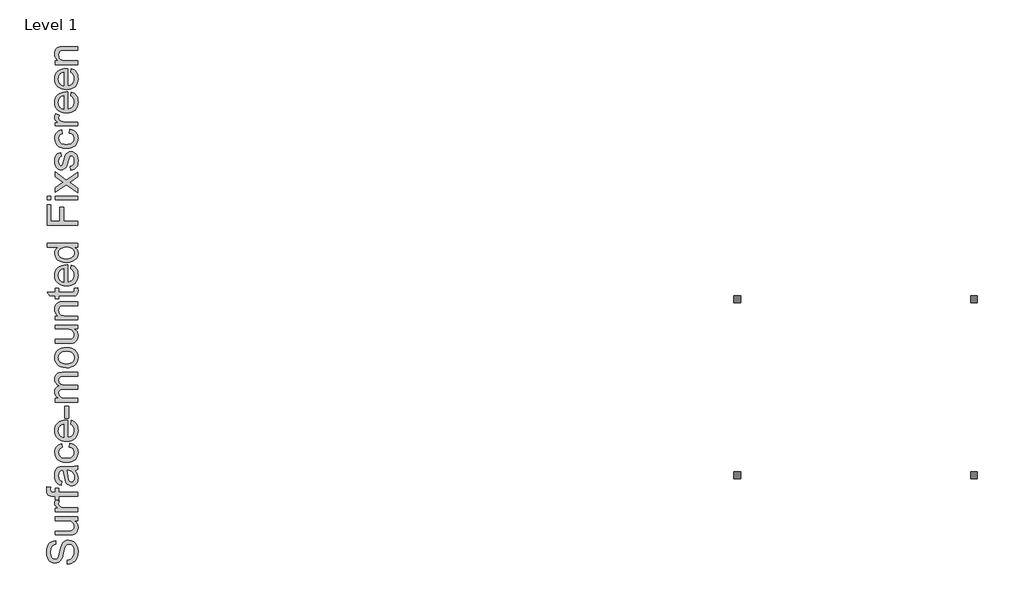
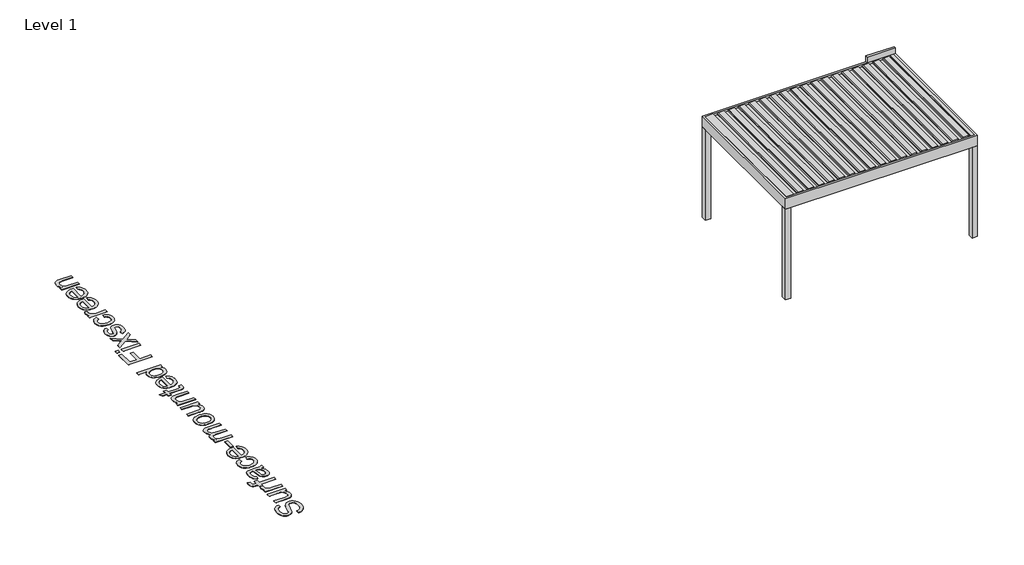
# One storey, part 46 of 47: 2 proxies.
"""IFC4 building model written with IfcOpenShell, lengths in millimetres."""

from ifc_helpers import new_model, si_unit, origin, origin_with_axes, place, context, project, spatial, polyline, outline, extrude, transform, mapped, element, save
from components import generic_models_be08a494

model = new_model("IFC4")

# Units and contexts
model_context = context("Model", 3, world=origin())
ifc_project = project(units=[si_unit("LENGTHUNIT", "METRE", prefix="MILLI")], contexts=[model_context])

# Site, building, storey
site = spatial("IfcSite", under=ifc_project)
building = spatial("IfcBuilding", under=site)
storey = spatial("IfcBuildingStorey", under=building, Name="Level 1", Elevation=0.0)

# Proxies
placement = place(None, origin())
generic_models_shape = generic_models_be08a494(model_context)
element("IfcBuildingElementProxy", 1, Name="Renson_Algarve_Single : Algarve - Single", ObjectType="Renson_Algarve_Single : Algarve - Single", at=placement, inside=storey, context=model_context, shape_type="MappedRepresentation", body=[
    mapped(generic_models_shape, transform((188362.4238385, 67528.5861401, 0.0), x_axis=(1.0, 0.0, 0.0), y_axis=(0.0, 1.0, 0.0), z_axis=(0.0, 0.0, 1.0))),
])
element("IfcBuildingElementProxy", 2, Name="500mm Arial", ObjectType="500mm Arial", at=placement, inside=storey, context=model_context, shape_type="SweptSolid", body=[
    extrude(outline(polyline([(175411.7215681, 64623.3833032), (175411.7215681, 64686.168497), (175446.5630588, 64693.3728528), (175474.5680756, 64706.4020068), (175496.7942795, 64726.727487), (175514.2993311, 64755.8208214), (175525.6576877, 64791.3827476), (175529.4438066, 64831.1140031), (175526.5773927, 64866.0934495), (175517.9781511, 64896.7196256), (175504.3665172, 64921.5363319), (175486.4629268, 64939.0873687), (175465.9075203, 64949.5260203), (175444.3404384, 64953.0055709), (175423.3251794, 64950.3997401), (175405.1610059, 64942.5822477), (175389.6639768, 64926.7020082), (175376.6501513, 64899.9079362), (175352.6765079, 64808.4892604), (175336.8115969, 64748.47851), (175321.7131066, 64710.0808267), (175300.5905488, 64678.8261855), (175274.9920933, 64656.6766237), (175245.4695631, 64643.4788572), (175212.5747814, 64639.0796016), (175175.8019103, 64644.5211895), (175141.5122427, 64660.845953), (175125.9845568, 64672.9822268), (175112.4495651, 64687.6246966), (175091.357664, 64724.4282245), (175078.5277794, 64768.6047208), (175074.2511512, 64817.5023693), (175078.7270488, 64870.4773766), (175092.1547416, 64916.830508), (175114.2583182, 64954.9062945), (175128.460096, 64970.2193826), (175144.761867, 64983.0492671), (175181.7646643, 65000.8608871), (175223.3659866, 65007.9426155), (175223.3659866, 64945.1574216), (175203.3317463, 64940.9574355), (175185.9033368, 64933.6304524), (175171.080758, 64923.1764724), (175158.8640101, 64909.5954954), (175149.3144067, 64892.6346026), (175142.4932613, 64872.0408751), (175137.0363451, 64819.9549159), (175142.4319477, 64766.6426835), (175149.1764509, 64746.2635538), (175158.6187554, 64730.0690818), (175169.9694478, 64717.7297065), (175182.4391146, 64708.9158671), (175196.0277558, 64703.6275634), (175210.7353714, 64701.8647955), (175234.8622989, 64706.8618593), (175254.2680742, 64721.8530506), (175262.8979727, 64735.6179685), (175271.6198416, 64757.2923494), (175289.3394911, 64824.3694999), (175306.1700923, 64893.5926286), (175320.8547153, 64935.4698624), (175343.6327422, 64971.2617149), (175371.745058, 64996.2317053), (175404.8850944, 65010.9009999), (175442.7462831, 65015.7907647), (175481.4505346, 65010.1652359), (175517.8555237, 64993.2886493), (175549.186807, 64965.8507839), (175572.669941, 64928.5414182), (175587.3392356, 64883.6751432), (175592.2290004, 64833.5665498), (175586.9560252, 64772.0536145), (175580.3648061, 64745.3783377), (175571.1370994, 64721.4238549), (175559.2575766, 64700.044546), (175544.7109094, 64681.0947912), (175527.4970977, 64664.5745903), (175507.6161415, 64650.4839435), (175485.7118344, 64639.1332511), (175462.4279698, 64630.8329136), (175437.7645477, 64625.5829309), (175411.7215681, 64623.3833032)])), origin_with_axes(), (0.0, 0.0, 1.0), 5.0),
    extrude(outline(polyline([(175584.3808512, 65337.5648832), (175520.9825207, 65337.5648832), (175552.1528556, 65314.84817), (175574.4173805, 65288.3913231), (175587.7760954, 65258.1943427), (175592.2290004, 65224.2572286), (175589.1020035, 65193.6770378), (175579.7210126, 65165.2121684), (175565.6188694, 65141.3304956), (175548.3284157, 65124.4998943), (175527.3284851, 65113.1721945), (175502.0979116, 65105.7992262), (175443.7273017, 65102.1204062), (175215.5178374, 65102.1204062), (175215.5178374, 65164.9056001), (175414.1741148, 65164.9056001), (175478.1855819, 65168.7070474), (175499.5380661, 65177.858112), (175515.7708591, 65193.539082), (175526.0255697, 65214.7076252), (175529.4438066, 65240.3214091), (175525.9489276, 65267.406721), (175515.4642908, 65292.7445934), (175498.9555862, 65313.6372251), (175477.3885043, 65327.3868146), (175447.8506457, 65335.020366), (175407.4296115, 65337.5648832), (175215.5178374, 65337.5648832), (175215.5178374, 65400.350077), (175584.3808512, 65400.350077), (175584.3808512, 65337.5648832)])), origin_with_axes(), (0.0, 0.0, 1.0), 5.0),
    extrude(outline(polyline([(175584.3808512, 65737.8204939), (175278.3030312, 65737.8204939), (175278.3030312, 65682.8834493), (175227.0448065, 65682.8834493), (175215.5178374, 65682.8834493), (175215.5178374, 65737.8204939), (175178.3617559, 65737.8204939), (175147.6129524, 65739.4759629), (175125.9998852, 65744.4423698), (175105.122582, 65757.072985), (175088.598549, 65776.5707307), (175077.8380007, 65803.855312), (175074.2511512, 65839.8464339), (175081.1182818, 65897.1133978), (175139.979401, 65887.9163479), (175137.0363451, 65851.7412851), (175139.6421759, 65827.8749406), (175147.4596683, 65812.1939706), (175162.3895459, 65803.5027585), (175186.3325324, 65800.6056877), (175215.5178374, 65800.6056877), (175215.5178374, 65871.2390308), (175278.3030312, 65871.2390308), (175278.3030312, 65800.6056877), (175584.3808512, 65800.6056877), (175584.3808512, 65737.8204939)])), origin_with_axes(), (0.0, 0.0, 1.0), 5.0),
    extrude(outline(polyline([(175584.3808512, 65486.6797185), (175215.5178374, 65486.6797185), (175215.5178374, 65541.6167631), (175270.087, 65541.6167631), (175238.4491484, 65561.9115865), (175219.809794, 65580.6122546), (175210.7047146, 65599.3742364), (175207.6696881, 65619.8530008), (175212.5134677, 65651.1229704), (175227.0448065, 65682.8834493), (175283.3307518, 65661.9141756), (175273.6738494, 65639.8412559), (175270.454882, 65617.7683361), (175273.5512221, 65599.0216828), (175282.8402425, 65582.2677236), (175297.616836, 65568.7327319), (175317.1758954, 65559.6429809), (175352.2473122, 65552.0094295), (175390.5070397, 65549.4649124), (175584.3808512, 65549.4649124), (175584.3808512, 65486.6797185)])), origin_with_axes(), (0.0, 0.0, 1.0), 5.0),
    extrude(outline(polyline([(175537.2919558, 66161.6205523), (175563.0130386, 66131.6228413), (175579.8436399, 66100.7360821), (175589.1326603, 66068.2551677), (175592.2290004, 66033.4749907), (175590.3665978, 66005.5197912), (175584.77939, 65981.0058211), (175575.467377, 65959.9330806), (175562.4305588, 65942.3015696), (175546.4966699, 65928.3795353), (175528.4934448, 65918.4352251), (175508.4208834, 65912.468639), (175486.2789858, 65910.479777), (175460.2513347, 65913.4841466), (175436.6149165, 65922.4972555), (175416.3814067, 65936.4001292), (175400.5624809, 65954.0737934), (175388.6063161, 65974.8437977), (175379.9610892, 65998.0356918), (175370.5187847, 66052.3595998), (175360.5859708, 66116.5550079), (175348.9363743, 66161.2526704), (175334.9568585, 66161.6205523), (175306.9365132, 66157.2979389), (175288.6037271, 66144.3300986), (175280.6636073, 66131.2549593), (175274.9920933, 66115.3287346), (175270.454882, 66074.9230288), (175273.47458, 66037.5216926), (175282.5336742, 66011.402071), (175299.2876334, 65993.5904511), (175325.3919266, 65981.11312), (175317.5437774, 65918.3279262), (175283.2081245, 65929.2264303), (175256.2301115, 65945.4898802), (175235.5980629, 65968.635789), (175220.3003033, 66000.1816701), (175210.8273419, 66038.7632944), (175207.6696881, 66083.0164327), (175210.4594599, 66125.4608179), (175218.8287753, 66159.106692), (175231.4134052, 66184.4752213), (175246.8491206, 66202.0875718), (175265.9329991, 66213.7678252), (175289.4621184, 66221.3400629), (175344.399163, 66224.4057462), (175422.5127733, 66224.4057462), (175531.5897849, 66227.5940568), (175558.5524695, 66232.3152091), (175584.3808512, 66240.1020447), (175584.3808512, 66177.3168508), (175562.5531861, 66167.2614096), (175537.2919558, 66161.6205523)]), holes=[polyline([(175411.7215681, 66161.6205523), (175422.1755482, 66119.4367502), (175430.9740592, 66060.3303763), (175441.1521277, 66006.3130367), (175448.1112288, 65992.2568788), (175457.7068175, 65981.848884), (175469.2031299, 65975.4109491), (175481.8644019, 65973.2649708), (175500.5344131, 65977.9401378), (175515.8321728, 65991.9656389), (175526.0408981, 66015.0349057), (175529.4438066, 66046.8413699), (175525.6883445, 66080.5638861), (175514.4219584, 66110.3623277), (175497.8212834, 66134.519912), (175478.0629546, 66151.3198565), (175457.7068175, 66158.7694669), (175429.5025312, 66161.2526704), (175411.7215681, 66161.6205523)])]), origin_with_axes(), (0.0, 0.0, 1.0), 5.0),
    extrude(outline(polyline([(175450.9623143, 66546.1798646), (175458.8104635, 66608.9650585), (175488.4364604, 66602.1362489), (175514.6518847, 66591.4600069), (175537.4567363, 66576.9363323), (175556.8510152, 66558.5652251), (175572.3288838, 66537.1207705), (175583.3845041, 66513.3770534), (175590.0178764, 66487.3340738), (175592.2290004, 66458.9918318), (175589.1441566, 66423.7786271), (175579.8896252, 66392.2059212), (175564.4654061, 66364.2737143), (175542.8714994, 66339.9820063), (175515.5141081, 66320.3194801), (175482.7994353, 66306.2748185), (175444.7274809, 66297.8480216), (175401.2982449, 66295.0390893), (175345.4261669, 66299.8368836), (175297.0036993, 66314.2302667), (175276.0535861, 66325.0827855), (175257.9009089, 66338.4491647), (175242.5456677, 66354.3294042), (175229.9878625, 66372.7235039), (175213.2492317, 66413.727018), (175207.6696881, 66458.1334405), (175209.5857402, 66485.9890053), (175215.3338964, 66511.1850899), (175224.9141567, 66533.7216942), (175238.3265211, 66553.5988182), (175255.2644213, 66570.4792368), (175275.4212889, 66584.0257249), (175298.797124, 66594.2382824), (175325.3919266, 66601.1169093), (175333.2400758, 66538.3317154), (175305.8481956, 66526.942702), (175286.2124941, 66509.2077241), (175274.394285, 66486.1078005), (175270.454882, 66458.6239498), (175272.3939267, 66437.2906262), (175278.2110607, 66418.0496314), (175287.9062841, 66400.9009655), (175301.4795969, 66385.8446284), (175319.2452316, 66373.5857273), (175341.5174207, 66364.8293694), (175368.2961643, 66359.5755547), (175399.5814623, 66357.8242831), (175431.3381091, 66359.5372337), (175458.4272531, 66364.6760853), (175480.8488943, 66373.240838), (175498.6030327, 66385.2314918), (175512.0958712, 66399.9889247), (175521.7336131, 66416.8540149), (175527.5162582, 66435.8267624), (175529.4438066, 66456.9071671), (175524.6306838, 66489.4187385), (175510.1913155, 66516.0748547), (175499.2698188, 66526.8545636), (175485.7578197, 66535.4653015), (175450.9623143, 66546.1798646)])), origin_with_axes(), (0.0, 0.0, 1.0), 5.0),
    extrude(outline(polyline([(175474.506762, 66922.1552637), (175482.3549112, 66983.7141842), (175507.0106691, 66974.2757118), (175528.7386994, 66961.5339656), (175547.5390022, 66945.4889457), (175563.4115775, 66926.140652), (175576.0192, 66903.688354), (175585.0246447, 66878.331321), (175590.4279115, 66850.0695532), (175592.2290004, 66818.9030504), (175589.121164, 66779.94588), (175579.7976547, 66745.2346809), (175564.2584725, 66714.7694531), (175542.5036174, 66688.5501968), (175515.1385619, 66667.4659599), (175482.7687784, 66652.4057907), (175445.394267, 66643.3696892), (175403.0150276, 66640.3576554), (175359.1987491, 66643.4003461), (175320.5788038, 66652.5284181), (175287.1551917, 66667.7418714), (175258.9279128, 66689.0407061), (175236.5024395, 66715.1909846), (175220.4842443, 66744.9587694), (175210.8733272, 66778.3440604), (175207.6696881, 66815.3468578), (175210.865663, 66851.1578707), (175220.4535875, 66883.5429826), (175236.4334616, 66912.5021934), (175258.8052855, 66938.0355032), (175286.9712507, 66958.8783175), (175320.3335492, 66973.766042), (175358.8921808, 66982.6986766), (175402.6471456, 66985.6762215), (175419.5697174, 66985.3083396), (175419.5697174, 66703.1428493), (175444.6240141, 66706.7795161), (175466.5666422, 66714.0106965), (175485.3976019, 66724.8363907), (175501.116893, 66739.2565984), (175513.5099177, 66756.4742422), (175522.3620782, 66775.6922444), (175527.6733745, 66796.9106049), (175529.4438066, 66820.1293237), (175526.1635255, 66853.5452716), (175516.3226821, 66881.6882442), (175499.3081398, 66904.5582416), (175474.506762, 66922.1552637)]), holes=[polyline([(175356.7845235, 66703.1428493), (175356.7845235, 66922.8910277), (175323.6138303, 66914.399085), (175299.8854416, 66897.7524247), (175287.0095718, 66880.6305835), (175277.8125219, 66861.1481662), (175272.294292, 66839.3051727), (175270.454882, 66815.1016031), (175276.3256655, 66772.7798453), (175283.6641449, 66754.366585), (175293.938016, 66737.7850705), (175306.672098, 66723.8707004), (175321.3912099, 66713.4588735), (175338.0953517, 66706.5495898), (175356.7845235, 66703.1428493)])]), origin_with_axes(), (0.0, 0.0, 1.0), 5.0),
    extrude(outline(polyline([(175435.2660158, 67017.0688185), (175372.480822, 67017.0688185), (175372.480822, 67213.2725492), (175435.2660158, 67213.2725492), (175435.2660158, 67017.0688185)])), origin_with_axes(), (0.0, 0.0, 1.0), 5.0),
    extrude(outline(polyline([(175584.3808512, 67283.9058923), (175215.5178374, 67283.9058923), (175215.5178374, 67346.6910861), (175276.2183666, 67346.6910861), (175248.335977, 67365.5756952), (175226.4929836, 67389.8559069), (175212.375512, 67418.7039867), (175207.6696881, 67451.2922001), (175212.4674825, 67486.2103328), (175226.8608656, 67514.2000213), (175249.8994755, 67535.1079813), (175280.6329505, 67548.7809288), (175248.7115232, 67571.6662546), (175225.9105037, 67597.7705479), (175212.229892, 67627.0938086), (175207.6696881, 67659.6360367), (175209.5665797, 67684.7708076), (175215.2572543, 67706.832231), (175224.741712, 67725.8203069), (175238.0199527, 67741.7350353), (175255.2452607, 67754.3158331), (175276.5709201, 67763.3021173), (175301.996931, 67768.6938878), (175331.5232932, 67770.4911446), (175584.3808512, 67770.4911446), (175584.3808512, 67707.7059507), (175358.5013062, 67707.7059507), (175327.1853513, 67706.2497512), (175306.0781218, 67701.8811525), (175291.6234251, 67693.6957781), (175280.2650685, 67680.7892514), (175272.9074286, 67664.1885764), (175270.454882, 67644.9207569), (175272.0260447, 67627.1282975), (175276.7395327, 67610.9070008), (175284.5953462, 67596.2568667), (175295.593485, 67583.1778954), (175310.0558459, 67572.4211791), (175328.3043257, 67564.7378104), (175350.3389244, 67560.1277891), (175376.1596419, 67558.5911154), (175584.3808512, 67558.5911154), (175584.3808512, 67495.8059215), (175351.5115482, 67495.8059215), (175316.0109357, 67492.1730868), (175290.6883917, 67481.2745827), (175281.8362312, 67472.8477858), (175275.5132594, 67462.0987337), (175270.454882, 67433.6338643), (175273.8271336, 67409.4456232), (175283.9438885, 67387.1581056), (175300.5598919, 67368.7640059), (175323.4298893, 67356.256018), (175355.1597114, 67349.0823191), (175398.355189, 67346.6910861), (175584.3808512, 67346.6910861), (175584.3808512, 67283.9058923)])), origin_with_axes(), (0.0, 0.0, 1.0), 5.0),
    extrude(outline(polyline([(175399.9493443, 67848.9726369), (175352.1783344, 67852.3678811), (175311.0138719, 67862.5536139), (175276.455957, 67879.5298351), (175248.5045896, 67903.2965448), (175230.6393202, 67927.224203), (175217.8784135, 67953.6350645), (175210.2218695, 67982.5291296), (175207.6696881, 68013.9063981), (175210.7775246, 68048.5447872), (175220.1010339, 68079.8645741), (175235.6402161, 68107.8657589), (175257.3950711, 68132.5483415), (175284.6298351, 68152.6937128), (175316.608744, 68167.0832638), (175353.3317977, 68175.7169944), (175394.7989963, 68178.5949046), (175458.2279837, 68173.5058703), (175484.2632991, 68167.1445775), (175506.5124956, 68158.2387675), (175525.7304977, 68146.8995714), (175542.67223, 68133.2381203), (175557.3376924, 68117.254414), (175569.7268851, 68098.9484526), (175586.6034716, 68058.2208501), (175592.2290004, 68013.9063981), (175589.1326603, 67978.7621712), (175579.8436399, 67947.1511444), (175564.3619393, 67919.0733175), (175542.6875584, 67894.5286906), (175515.1883793, 67874.5979171), (175482.2322839, 67860.3616503), (175443.8192722, 67851.8198903), (175399.9493443, 67848.9726369)]), holes=[polyline([(175399.8267169, 67911.7578307), (175430.2804484, 67913.5742481), (175456.6491568, 67919.0235001), (175478.9328422, 67928.1055869), (175497.1315047, 67940.8205084), (175511.2681368, 67956.2868806), (175521.3657311, 67973.6233196), (175527.4242877, 67992.8298254), (175529.4438066, 68013.9063981), (175527.4127914, 68034.8756718), (175521.3197459, 68054.0055355), (175511.1646699, 68071.2959893), (175496.9475637, 68086.7470331), (175478.5687923, 68099.4619546), (175455.9287212, 68108.5440413), (175429.0273503, 68113.9932934), (175397.8646796, 68115.8097107), (175368.3766385, 68113.9817971), (175342.6977088, 68108.4980561), (175320.8278906, 68099.3584878), (175302.7671839, 68086.5630921), (175288.6305518, 68071.0545668), (175278.5329575, 68053.7756093), (175272.4744008, 68034.7262197), (175270.454882, 68013.9063981), (175272.4667366, 67992.8298254), (175278.5023006, 67973.6233196), (175288.5615739, 67956.2868806), (175302.6445566, 67940.8205084), (175320.7895695, 67928.1055869), (175343.0349339, 67919.0235001), (175369.3806497, 67913.5742481), (175399.8267169, 67911.7578307)])]), origin_with_axes(), (0.0, 0.0, 1.0), 5.0),
    extrude(outline(polyline([(175584.3808512, 68484.6727246), (175520.9825207, 68484.6727246), (175552.1528556, 68461.9560114), (175574.4173805, 68435.4991645), (175587.7760954, 68405.3021841), (175592.2290004, 68371.36507), (175589.1020035, 68340.7848792), (175579.7210126, 68312.3200098), (175565.6188694, 68288.438337), (175548.3284157, 68271.6077357), (175527.3284851, 68260.2800359), (175502.0979116, 68252.9070676), (175443.7273017, 68249.2282476), (175215.5178374, 68249.2282476), (175215.5178374, 68312.0134415), (175414.1741148, 68312.0134415), (175478.1855819, 68315.8148888), (175499.5380661, 68324.9659534), (175515.7708591, 68340.6469234), (175526.0255697, 68361.8154666), (175529.4438066, 68387.4292505), (175525.9489276, 68414.5145624), (175515.4642908, 68439.8524348), (175498.9555862, 68460.7450665), (175477.3885043, 68474.494656), (175447.8506457, 68482.1282074), (175407.4296115, 68484.6727246), (175215.5178374, 68484.6727246), (175215.5178374, 68547.4579184), (175584.3808512, 68547.4579184), (175584.3808512, 68484.6727246)])), origin_with_axes(), (0.0, 0.0, 1.0), 5.0),
    extrude(outline(polyline([(175584.3808512, 68633.7875599), (175215.5178374, 68633.7875599), (175215.5178374, 68696.5727538), (175267.0213167, 68696.5727538), (175241.0549792, 68718.3850904), (175222.5075953, 68744.5813542), (175211.3791649, 68775.161545), (175207.6696881, 68810.125663), (175210.6587293, 68841.0737358), (175219.625853, 68869.4159778), (175233.4520846, 68893.052396), (175251.0184499, 68909.8829973), (175272.2789635, 68921.3026676), (175297.1876403, 68928.7062927), (175357.8881695, 68932.0172307), (175584.3808512, 68932.0172307), (175584.3808512, 68869.2320369), (175366.3494554, 68869.2320369), (175333.8838693, 68867.4232837), (175310.7992741, 68861.9970243), (175294.2599127, 68851.9875683), (175281.4300282, 68836.4292256), (175273.1986685, 68816.4869558), (175270.454882, 68793.3257185), (175271.9953878, 68774.2610005), (175276.6169054, 68756.5528474), (175284.3194347, 68740.2012591), (175295.1029757, 68725.2062357), (175310.1938017, 68712.6790874), (175330.818186, 68703.7311243), (175356.9761287, 68698.3623464), (175388.6676298, 68696.5727538), (175584.3808512, 68696.5727538), (175584.3808512, 68633.7875599)])), origin_with_axes(), (0.0, 0.0, 1.0), 5.0),
    extrude(outline(polyline([(175532.0189805, 69151.7654091), (175586.2202612, 69159.6135584), (175592.2290004, 69112.6472903), (175589.6231696, 69082.5116236), (175581.8056772, 69060.040165), (175569.7575419, 69044.1599256), (175554.4597823, 69033.797916), (175528.1868764, 69028.0957451), (175483.2133025, 69026.1950215), (175278.3030312, 69026.1950215), (175278.3030312, 68979.1061261), (175215.5178374, 68979.1061261), (175215.5178374, 69026.1950215), (175125.8772579, 69026.1950215), (175088.966431, 69088.9802153), (175215.5178374, 69088.9802153), (175215.5178374, 69151.7654091), (175278.3030312, 69151.7654091), (175278.3030312, 69088.9802153), (175481.3738925, 69088.9802153), (175513.7475081, 69092.2911533), (175525.2131636, 69103.0210448), (175529.4438066, 69124.4195142), (175532.0189805, 69151.7654091)])), origin_with_axes(), (0.0, 0.0, 1.0), 5.0),
    extrude(outline(polyline([(175474.506762, 69472.8037636), (175482.3549112, 69534.3626841), (175507.0106691, 69524.9242117), (175528.7386994, 69512.1824655), (175547.5390022, 69496.1374456), (175563.4115775, 69476.7891519), (175576.0192, 69454.3368539), (175585.0246447, 69428.9798209), (175590.4279115, 69400.7180531), (175592.2290004, 69369.5515503), (175589.121164, 69330.5943798), (175579.7976547, 69295.8831808), (175564.2584725, 69265.417953), (175542.5036174, 69239.1986967), (175515.1385619, 69218.1144598), (175482.7687784, 69203.0542906), (175445.394267, 69194.0181891), (175403.0150276, 69191.0061553), (175359.1987491, 69194.048846), (175320.5788038, 69203.176918), (175287.1551917, 69218.3903713), (175258.9279128, 69239.689206), (175236.5024395, 69265.8394845), (175220.4842443, 69295.6072693), (175210.8733272, 69328.9925603), (175207.6696881, 69365.9953577), (175210.865663, 69401.8063706), (175220.4535875, 69434.1914825), (175236.4334616, 69463.1506933), (175258.8052855, 69488.6840031), (175286.9712507, 69509.5268174), (175320.3335492, 69524.4145418), (175358.8921808, 69533.3471765), (175402.6471456, 69536.3247214), (175419.5697174, 69535.9568394), (175419.5697174, 69253.7913491), (175444.6240141, 69257.4280159), (175466.5666422, 69264.6591964), (175485.3976019, 69275.4848905), (175501.116893, 69289.9050983), (175513.5099177, 69307.1227421), (175522.3620782, 69326.3407443), (175527.6733745, 69347.5591048), (175529.4438066, 69370.7778236), (175526.1635255, 69404.1937715), (175516.3226821, 69432.3367441), (175499.3081398, 69455.2067415), (175474.506762, 69472.8037636)]), holes=[polyline([(175356.7845235, 69253.7913491), (175356.7845235, 69473.5395276), (175323.6138303, 69465.0475849), (175299.8854416, 69448.4009246), (175287.0095718, 69431.2790834), (175277.8125219, 69411.7966661), (175272.294292, 69389.9536726), (175270.454882, 69365.750103), (175276.3256655, 69323.4283451), (175283.6641449, 69305.0150849), (175293.938016, 69288.4335704), (175306.672098, 69274.5192003), (175321.3912099, 69264.1073734), (175338.0953517, 69257.1980897), (175356.7845235, 69253.7913491)])]), origin_with_axes(), (0.0, 0.0, 1.0), 5.0),
    extrude(outline(polyline([(175584.3808512, 69826.706243), (175525.15185, 69826.706243), (175554.4981033, 69807.9212686), (175575.4597128, 69785.1662343), (175588.0366785, 69758.4411402), (175592.2290004, 69727.7459863), (175586.1589475, 69687.1563395), (175567.9487887, 69650.0002579), (175538.8707827, 69618.5463474), (175500.197188, 69595.0632133), (175453.491503, 69580.439904), (175400.3172263, 69575.5654676), (175347.8020715, 69580.0566936), (175300.3759509, 69593.5303717), (175279.2457288, 69603.6317981), (175260.7366659, 69615.9711734), (175244.8487623, 69630.5484975), (175231.5820178, 69647.3637703), (175213.6477706, 69685.3322579), (175207.6696881, 69727.5007316), (175211.9463163, 69758.2188782), (175224.7762009, 69785.3808322), (175244.4425592, 69808.4041137), (175269.2286087, 69826.706243), (175082.0993004, 69826.706243), (175082.0993004, 69889.4914368), (175584.3808512, 69889.4914368), (175584.3808512, 69826.706243)]), holes=[polyline([(175400.0719716, 69638.3506614), (175430.5180388, 69640.1210935), (175456.8637546, 69645.4323898), (175479.109119, 69654.2845504), (175497.254132, 69666.6775751), (175511.3371146, 69681.4771612), (175521.3963879, 69697.5490058), (175527.4319519, 69714.8931091), (175529.4438066, 69733.5094709), (175527.5239224, 69752.213971), (175521.7642699, 69769.4546075), (175512.1648491, 69785.2313801), (175498.72566, 69799.544289), (175481.3394036, 69811.4276439), (175459.8987811, 69819.9157545), (175434.4037924, 69825.0086208), (175404.8544375, 69826.706243), (175372.4578293, 69824.977964), (175344.6750745, 69819.7931271), (175321.506173, 69811.1517324), (175302.9511249, 69799.0537797), (175288.7340186, 69784.4266382), (175278.5789427, 69768.1976773), (175272.4858972, 69750.3668969), (175270.454882, 69730.9342969), (175272.405423, 69711.9500531), (175278.257046, 69694.6059499), (175288.0097509, 69678.9019872), (175301.6635379, 69664.8381651), (175319.517311, 69653.2498822), (175341.8699743, 69644.9725373), (175368.7215278, 69640.0061304), (175400.0719716, 69638.3506614)])]), origin_with_axes(), (0.0, 0.0, 1.0), 5.0),
    extrude(outline(polyline([(175584.3808512, 70187.7211076), (175082.0993004, 70187.7211076), (175082.0993004, 70525.1915245), (175144.8844943, 70525.1915245), (175144.8844943, 70250.5063014), (175293.9993297, 70250.5063014), (175293.9993297, 70485.9507783), (175356.7845235, 70485.9507783), (175356.7845235, 70250.5063014), (175584.3808512, 70250.5063014), (175584.3808512, 70187.7211076)])), origin_with_axes(), (0.0, 0.0, 1.0), 5.0),
    extrude(outline(polyline([(175584.3808512, 70603.6730168), (175215.5178374, 70603.6730168), (175215.5178374, 70666.4582106), (175584.3808512, 70666.4582106), (175584.3808512, 70603.6730168)])), origin_with_axes(), (0.0, 0.0, 1.0), 5.0),
    extrude(outline(polyline([(175144.8844943, 70603.6730168), (175082.0993004, 70603.6730168), (175082.0993004, 70666.4582106), (175144.8844943, 70666.4582106), (175144.8844943, 70603.6730168)])), origin_with_axes(), (0.0, 0.0, 1.0), 5.0),
    extrude(outline(polyline([(175584.3808512, 70721.3952552), (175398.9683256, 70855.5495561), (175215.5178374, 70729.2434045), (175215.5178374, 70804.7818408), (175303.8095162, 70865.7276247), (175345.502809, 70894.1771656), (175311.4124108, 70918.8252593), (175215.5178374, 70988.2323291), (175215.5178374, 71063.7707654), (175398.9683256, 70931.0879925), (175584.3808512, 71058.8656721), (175584.3808512, 70983.3272358), (175472.9126067, 70906.4398988), (175452.5564696, 70892.3377557), (175584.3808512, 70796.9336916), (175584.3808512, 70721.3952552)])), origin_with_axes(), (0.0, 0.0, 1.0), 5.0),
    extrude(outline(polyline([(175474.506762, 71090.2582691), (175466.6586127, 71153.0434629), (175493.5139984, 71162.9456199), (175513.2569988, 71182.1061405), (175525.3971046, 71210.647652), (175529.4438066, 71248.6927817), (175525.7343298, 71286.2780588), (175514.6058994, 71312.7042488), (175498.4804053, 71328.3392336), (175479.7797372, 71333.5508952), (175463.7768704, 71328.3085768), (175451.5754509, 71312.5816215), (175433.6718605, 71247.9570177), (175417.1018423, 71190.6593969), (175402.9537139, 71153.4113449), (175387.5179985, 71129.4836868), (175367.0852194, 71112.1472478), (175342.9582919, 71101.6166257), (175316.4401314, 71098.1064183), (175292.1139344, 71100.9268469), (175269.6578043, 71109.3881328), (175249.9607892, 71122.7238551), (175233.9119371, 71140.1675931), (175223.8105107, 71157.5040321), (175215.3338964, 71180.0827896), (175209.5857402, 71206.1870828), (175207.6696881, 71234.1001292), (175210.7506998, 71274.9656875), (175219.993735, 71310.4969568), (175234.494417, 71339.0691251), (175253.3483692, 71359.0573802), (175277.9504776, 71372.301132), (175309.6956281, 71380.6397906), (175317.5437774, 71317.8545967), (175297.7854485, 71309.9298054), (175282.9015561, 71294.2488354), (175273.5665505, 71270.6584024), (175270.454882, 71239.0052224), (175273.4285948, 71202.9527869), (175282.3497332, 71178.9178299), (175295.225603, 71165.3981666), (175310.0635101, 71160.8916121), (175319.7204125, 71162.7616789), (175328.3349826, 71168.3718794), (175336.0298476, 71177.9674681), (175342.191871, 71191.7936997), (175355.5582502, 71245.872353), (175385.1114371, 71338.0267928), (175399.2442371, 71362.3683182), (175418.5886987, 71380.8237316), (175443.2061355, 71392.4579997), (175473.1578613, 71396.3360891), (175504.1212626, 71391.7835494), (175533.2452539, 71378.1259303), (175558.2459011, 71355.884398), (175576.8392703, 71325.5801186), (175588.3815679, 71288.9758601), (175592.2290004, 71247.8343903), (175590.374262, 71214.0428962), (175584.8100469, 71184.5280303), (175575.5363549, 71159.2897926), (175562.5531861, 71138.3281831), (175545.9218543, 71121.2063419), (175525.703673, 71107.4874092), (175501.8986422, 71097.1713849), (175474.506762, 71090.2582691)])), origin_with_axes(), (0.0, 0.0, 1.0), 5.0),
    extrude(outline(polyline([(175450.9623143, 71702.413909), (175458.8104635, 71765.1991029), (175488.4364604, 71758.3702933), (175514.6518847, 71747.6940513), (175537.4567363, 71733.1703767), (175556.8510152, 71714.7992695), (175572.3288838, 71693.3548149), (175583.3845041, 71669.6110978), (175590.0178764, 71643.5681182), (175592.2290004, 71615.2258762), (175589.1441566, 71580.0126715), (175579.8896252, 71548.4399656), (175564.4654061, 71520.5077587), (175542.8714994, 71496.2160507), (175515.5141081, 71476.5535245), (175482.7994353, 71462.5088629), (175444.7274809, 71454.082066), (175401.2982449, 71451.2731337), (175345.4261669, 71456.070928), (175297.0036993, 71470.4643111), (175276.0535861, 71481.3168299), (175257.9009089, 71494.6832091), (175242.5456677, 71510.5634486), (175229.9878625, 71528.9575483), (175213.2492317, 71569.9610624), (175207.6696881, 71614.3674849), (175209.5857402, 71642.2230497), (175215.3338964, 71667.4191342), (175224.9141567, 71689.9557386), (175238.3265211, 71709.8328626), (175255.2644213, 71726.7132812), (175275.4212889, 71740.2597693), (175298.797124, 71750.4723268), (175325.3919266, 71757.3509537), (175333.2400758, 71694.5657598), (175305.8481956, 71683.1767464), (175286.2124941, 71665.4417685), (175274.394285, 71642.3418449), (175270.454882, 71614.8579942), (175272.3939267, 71593.5246706), (175278.2110607, 71574.2836758), (175287.9062841, 71557.1350099), (175301.4795969, 71542.0786728), (175319.2452316, 71529.8197717), (175341.5174207, 71521.0634138), (175368.2961643, 71515.8095991), (175399.5814623, 71514.0583275), (175431.3381091, 71515.771278), (175458.4272531, 71520.9101297), (175480.8488943, 71529.4748824), (175498.6030327, 71541.4655361), (175512.0958712, 71556.2229691), (175521.7336131, 71573.0880593), (175527.5162582, 71592.0608068), (175529.4438066, 71613.1412115), (175524.6306838, 71645.6527829), (175510.1913155, 71672.3088991), (175499.2698188, 71683.088608), (175485.7578197, 71691.6993459), (175450.9623143, 71702.413909)])), origin_with_axes(), (0.0, 0.0, 1.0), 5.0),
    extrude(outline(polyline([(175584.3808512, 71820.1361475), (175215.5178374, 71820.1361475), (175215.5178374, 71875.0731921), (175270.087, 71875.0731921), (175238.4491484, 71895.3680155), (175219.809794, 71914.0686836), (175210.7047146, 71932.8306654), (175207.6696881, 71953.3094297), (175212.5134677, 71984.5793993), (175227.0448065, 72016.3398783), (175283.3307518, 71995.3706045), (175273.6738494, 71973.2976848), (175270.454882, 71951.2247651), (175273.5512221, 71932.4781118), (175282.8402425, 71915.7241526), (175297.616836, 71902.1891608), (175317.1758954, 71893.0994099), (175352.2473122, 71885.4658585), (175390.5070397, 71882.9213413), (175584.3808512, 71882.9213413), (175584.3808512, 71820.1361475)])), origin_with_axes(), (0.0, 0.0, 1.0), 5.0),
    extrude(outline(polyline([(175474.506762, 72313.833785), (175482.3549112, 72375.3927055), (175507.0106691, 72365.9542331), (175528.7386994, 72353.2124869), (175547.5390022, 72337.167467), (175563.4115775, 72317.8191733), (175576.0192, 72295.3668753), (175585.0246447, 72270.0098423), (175590.4279115, 72241.7480745), (175592.2290004, 72210.5815717), (175589.121164, 72171.6244013), (175579.7976547, 72136.9132022), (175564.2584725, 72106.4479745), (175542.5036174, 72080.2287181), (175515.1385619, 72059.1444812), (175482.7687784, 72044.0843121), (175445.394267, 72035.0482106), (175403.0150276, 72032.0361767), (175359.1987491, 72035.0788674), (175320.5788038, 72044.2069394), (175287.1551917, 72059.4203927), (175258.9279128, 72080.7192274), (175236.5024395, 72106.8695059), (175220.4842443, 72136.6372907), (175210.8733272, 72170.0225817), (175207.6696881, 72207.0253791), (175210.865663, 72242.8363921), (175220.4535875, 72275.2215039), (175236.4334616, 72304.1807148), (175258.8052855, 72329.7140245), (175286.9712507, 72350.5568388), (175320.3335492, 72365.4445633), (175358.8921808, 72374.377198), (175402.6471456, 72377.3547429), (175419.5697174, 72376.9868609), (175419.5697174, 72094.8213706), (175444.6240141, 72098.4580374), (175466.5666422, 72105.6892178), (175485.3976019, 72116.514912), (175501.116893, 72130.9351198), (175513.5099177, 72148.1527635), (175522.3620782, 72167.3707657), (175527.6733745, 72188.5891262), (175529.4438066, 72211.807845), (175526.1635255, 72245.2237929), (175516.3226821, 72273.3667656), (175499.3081398, 72296.2367629), (175474.506762, 72313.833785)]), holes=[polyline([(175356.7845235, 72094.8213706), (175356.7845235, 72314.569549), (175323.6138303, 72306.0776063), (175299.8854416, 72289.430946), (175287.0095718, 72272.3091048), (175277.8125219, 72252.8266875), (175272.294292, 72230.983694), (175270.454882, 72206.7801244), (175276.3256655, 72164.4583666), (175283.6641449, 72146.0451063), (175293.938016, 72129.4635918), (175306.672098, 72115.5492217), (175321.3912099, 72105.1373948), (175338.0953517, 72098.2281111), (175356.7845235, 72094.8213706)])]), origin_with_axes(), (0.0, 0.0, 1.0), 5.0),
    extrude(outline(polyline([(175474.506762, 72698.3930973), (175482.3549112, 72759.9520178), (175507.0106691, 72750.5135454), (175528.7386994, 72737.7717992), (175547.5390022, 72721.7267793), (175563.4115775, 72702.3784856), (175576.0192, 72679.9261876), (175585.0246447, 72654.5691546), (175590.4279115, 72626.3073868), (175592.2290004, 72595.140884), (175589.121164, 72556.1837136), (175579.7976547, 72521.4725145), (175564.2584725, 72491.0072867), (175542.5036174, 72464.7880304), (175515.1385619, 72443.7037935), (175482.7687784, 72428.6436244), (175445.394267, 72419.6075228), (175403.0150276, 72416.595489), (175359.1987491, 72419.6381797), (175320.5788038, 72428.7662517), (175287.1551917, 72443.979705), (175258.9279128, 72465.2785397), (175236.5024395, 72491.4288182), (175220.4842443, 72521.196603), (175210.8733272, 72554.581894), (175207.6696881, 72591.5846914), (175210.865663, 72627.3957043), (175220.4535875, 72659.7808162), (175236.4334616, 72688.740027), (175258.8052855, 72714.2733368), (175286.9712507, 72735.1161511), (175320.3335492, 72750.0038756), (175358.8921808, 72758.9365102), (175402.6471456, 72761.9140551), (175419.5697174, 72761.5461732), (175419.5697174, 72479.3806829), (175444.6240141, 72483.0173497), (175466.5666422, 72490.2485301), (175485.3976019, 72501.0742243), (175501.116893, 72515.494432), (175513.5099177, 72532.7120758), (175522.3620782, 72551.930078), (175527.6733745, 72573.1484385), (175529.4438066, 72596.3671573), (175526.1635255, 72629.7831052), (175516.3226821, 72657.9260778), (175499.3081398, 72680.7960752), (175474.506762, 72698.3930973)]), holes=[polyline([(175356.7845235, 72479.3806829), (175356.7845235, 72699.1288613), (175323.6138303, 72690.6369186), (175299.8854416, 72673.9902583), (175287.0095718, 72656.8684171), (175277.8125219, 72637.3859998), (175272.294292, 72615.5430063), (175270.454882, 72591.3394367), (175276.3256655, 72549.0176789), (175283.6641449, 72530.6044186), (175293.938016, 72514.0229041), (175306.672098, 72500.108534), (175321.3912099, 72489.6967071), (175338.0953517, 72482.7874234), (175356.7845235, 72479.3806829)])]), origin_with_axes(), (0.0, 0.0, 1.0), 5.0),
    extrude(outline(polyline([(175584.3808512, 72824.699249), (175215.5178374, 72824.699249), (175215.5178374, 72887.4844428), (175267.0213167, 72887.4844428), (175241.0549792, 72909.2967795), (175222.5075953, 72935.4930432), (175211.3791649, 72966.0732341), (175207.6696881, 73001.037352), (175210.6587293, 73031.9854249), (175219.625853, 73060.3276669), (175233.4520846, 73083.9640851), (175251.0184499, 73100.7946864), (175272.2789635, 73112.2143566), (175297.1876403, 73119.6179818), (175357.8881695, 73122.9289197), (175584.3808512, 73122.9289197), (175584.3808512, 73060.1437259), (175366.3494554, 73060.1437259), (175333.8838693, 73058.3349728), (175310.7992741, 73052.9087133), (175294.2599127, 73042.8992574), (175281.4300282, 73027.3409147), (175273.1986685, 73007.3986448), (175270.454882, 72984.2374076), (175271.9953878, 72965.1726896), (175276.6169054, 72947.4645365), (175284.3194347, 72931.1129482), (175295.1029757, 72916.1179248), (175310.1938017, 72903.5907764), (175330.818186, 72894.6428133), (175356.9761287, 72889.2740355), (175388.6676298, 72887.4844428), (175584.3808512, 72887.4844428), (175584.3808512, 72824.699249)])), origin_with_axes(), (0.0, 0.0, 1.0), 5.0),
])

save(model, "model.ifc")
